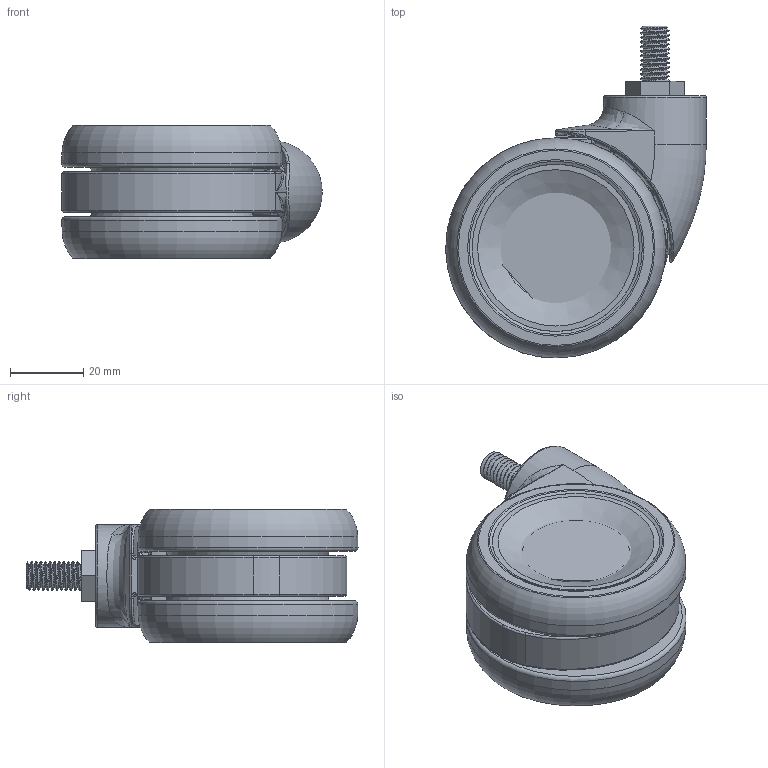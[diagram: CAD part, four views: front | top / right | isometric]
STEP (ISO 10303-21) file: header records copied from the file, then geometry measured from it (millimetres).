
FILE_DESCRIPTION (( 'STEP AP203' ), '1' );
FILE_NAME ('K09U28(M8).STEP', '2025-04-09T05:21:41', ( '' ), ( '' ), 'SwSTEP 2.0', 'SolidWorks 2025', '' );
FILE_SCHEMA (( 'CONFIG_CONTROL_DESIGN' ));
Length unit declared in the file: millimetre
Products named in the file (5): M8縦軸; TPU車輪; K09U28(M8); 本体; 28カバー_2
Assembly tree (5 placements, depth 2):
  K09U28(M8)
    本体
    M8縦軸
    28カバー_2
    TPU車輪  x2
Bounding box: 71 x 90.5 x 36.4 mm (x, y, z)
Volume: 81257.6 mm3; surface area: 59529.9 mm2
Topology: 9 solids, 10 shells, 706 faces, 1923 edges, 1152 vertices
Faces by surface type: plane 275, cylinder 149, torus 94, bspline 94, cone 58, sphere 36
Full cylindrical faces by diameter (mm): 2.3 x45, 7.7 x1, 9 x2, 9.4 x2, 15.6 x1, 16 x2, 16.2 x1, 17 x1, 28 x1, 34 x2, 34.95 x1, 35 x1, 36 x4, 36.4 x4, 38.35 x3, 44.15 x3, 46 x2, 46.95 x1, 47 x1, 54.897 x4
Entity records: 25649 total; most frequent: CARTESIAN_POINT 11973, ORIENTED_EDGE 2700, DIRECTION 2609, EDGE_CURVE 1350, AXIS2_PLACEMENT_3D 1146, VERTEX_POINT 881, EDGE_LOOP 849, FACE_OUTER_BOUND 692
